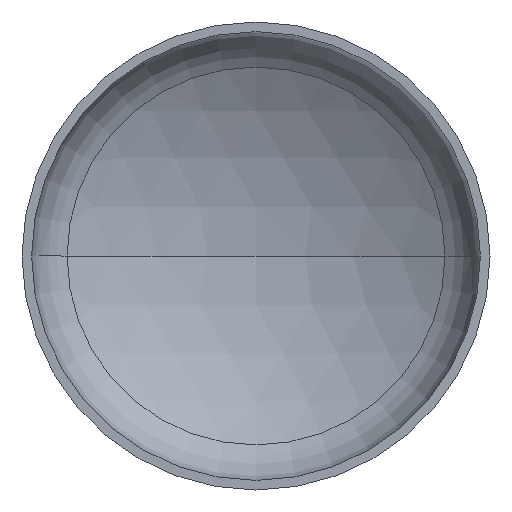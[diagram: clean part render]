
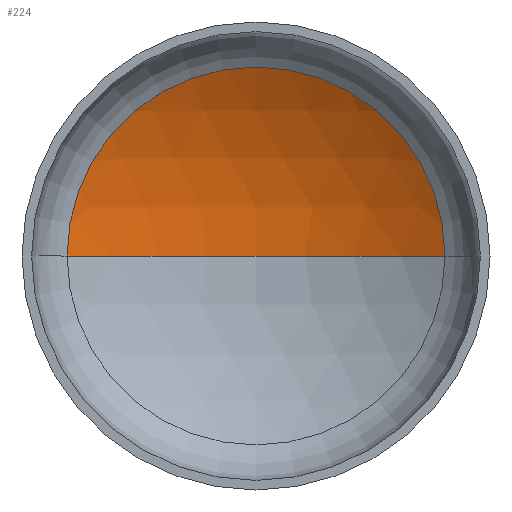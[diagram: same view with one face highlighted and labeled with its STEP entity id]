
A CAD part, front view. The second image highlights one B-rep face of the part: STEP entity #224.
In plain terms, the highlighted spherical face has radius 1440 mm.
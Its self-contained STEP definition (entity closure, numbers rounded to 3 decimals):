
#7 = AXIS2_PLACEMENT_3D ( 'NONE', #341, #188, #363 ) ;
#10 = AXIS2_PLACEMENT_3D ( 'NONE', #339, #119, #313 ) ;
#12 = EDGE_LOOP ( 'NONE', ( #67, #39, #33 ) ) ;
#19 = DIRECTION ( 'NONE',  ( -1., 0., 0. ) ) ;
#22 = AXIS2_PLACEMENT_3D ( 'NONE', #383, #274, #331 ) ;
#33 = ORIENTED_EDGE ( 'NONE', *, *, #389, .T. ) ;
#35 = CIRCLE ( 'NONE', #22, 1440. ) ;
#36 = VERTEX_POINT ( 'NONE', #356 ) ;
#39 = ORIENTED_EDGE ( 'NONE', *, *, #377, .T. ) ;
#65 = AXIS2_PLACEMENT_3D ( 'NONE', #200, #204, #19 ) ;
#67 = ORIENTED_EDGE ( 'NONE', *, *, #365, .F. ) ;
#98 = VERTEX_POINT ( 'NONE', #228 ) ;
#119 = DIRECTION ( 'NONE',  ( 0., 0., -1. ) ) ;
#129 = VERTEX_POINT ( 'NONE', #232 ) ;
#188 = DIRECTION ( 'NONE',  ( 0., -1., 0. ) ) ;
#200 = CARTESIAN_POINT ( 'NONE',  ( 0., -885.724, 0. ) ) ;
#204 = DIRECTION ( 'NONE',  ( 0., 0., -1. ) ) ;
#224 = ADVANCED_FACE ( 'NONE', ( #349 ), #398, .F. ) ;
#228 = CARTESIAN_POINT ( 'NONE',  ( 0., 554.276, 0. ) ) ;
#232 = CARTESIAN_POINT ( 'NONE',  ( 726.798, 357.403, 0. ) ) ;
#245 = CIRCLE ( 'NONE', #7, 726.798 ) ;
#274 = DIRECTION ( 'NONE',  ( 0., 0., 1. ) ) ;
#313 = DIRECTION ( 'NONE',  ( -1., 0., 0. ) ) ;
#331 = DIRECTION ( 'NONE',  ( 1., 0., 0. ) ) ;
#339 = CARTESIAN_POINT ( 'NONE',  ( 0., -885.724, 0. ) ) ;
#341 = CARTESIAN_POINT ( 'NONE',  ( 0., 357.403, 0. ) ) ;
#349 = FACE_OUTER_BOUND ( 'NONE', #12, .T. ) ;
#356 = CARTESIAN_POINT ( 'NONE',  ( -726.798, 357.403, 0. ) ) ;
#363 = DIRECTION ( 'NONE',  ( 1., 0., 0. ) ) ;
#365 = EDGE_CURVE ( 'NONE', #98, #36, #35, .T. ) ;
#370 = CIRCLE ( 'NONE', #10, 1440. ) ;
#377 = EDGE_CURVE ( 'NONE', #98, #129, #370, .T. ) ;
#383 = CARTESIAN_POINT ( 'NONE',  ( 0., -885.724, 0. ) ) ;
#389 = EDGE_CURVE ( 'NONE', #129, #36, #245, .T. ) ;
#398 = SPHERICAL_SURFACE ( 'NONE', #65, 1440. ) ;
